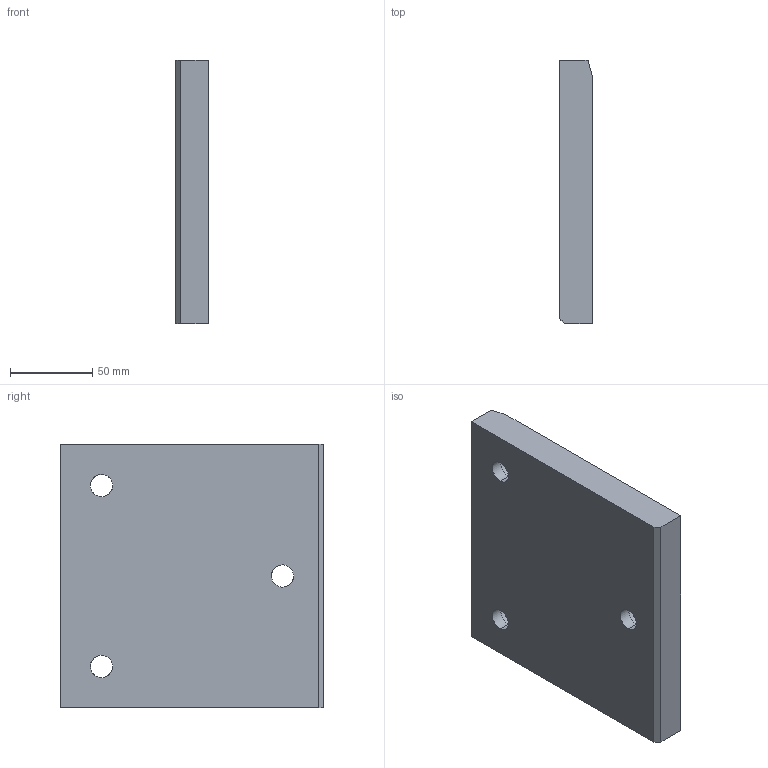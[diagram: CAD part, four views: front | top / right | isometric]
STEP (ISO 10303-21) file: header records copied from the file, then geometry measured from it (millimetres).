
FILE_DESCRIPTION(('CATIA V5 STEP Exchange'),'2;1');
FILE_NAME('C:\Users\borellobunino\Desktop\3D X SITO CF\A915\GSB_OILLESS_G22501160160\STEP-2.03\A915-160X160.stp','2019-07-14T14:17:23+00:00',('none'),('none'),'CATIA Version 5 Release 20 GA (IN-10)','CATIA V5 STEP AP203','none');
FILE_SCHEMA(('CONFIG_CONTROL_DESIGN'));
Length unit declared in the file: millimetre
Products named in the file (1): A915-160X160
Bounding box: 20 x 160 x 160 mm (x, y, z)
Volume: 493486.8 mm3; surface area: 65561.1 mm2
Topology: 1 solids, 1 shells, 30 faces, 99 edges, 74 vertices
Faces by surface type: cylinder 13, plane 11, torus 6
Entity records: 1437 total; most frequent: CARTESIAN_POINT 540, ORIENTED_EDGE 198, DIRECTION 135, EDGE_CURVE 99, AXIS2_PLACEMENT_3D 75, VERTEX_POINT 74, CIRCLE 44, EDGE_LOOP 39
